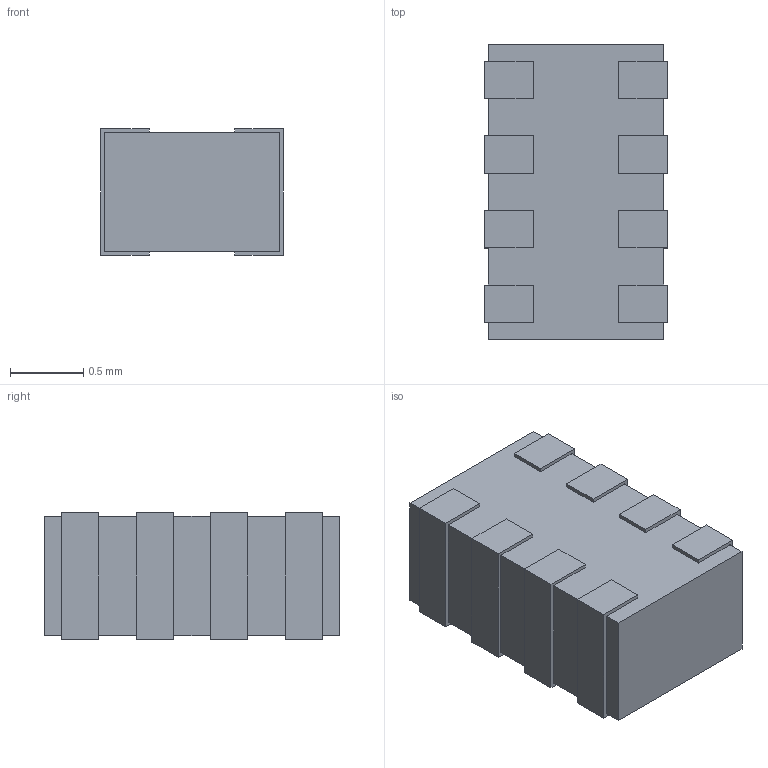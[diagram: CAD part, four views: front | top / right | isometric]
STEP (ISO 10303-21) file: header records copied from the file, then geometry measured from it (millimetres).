
FILE_DESCRIPTION(('STEP AP214'),'1');
FILE_NAME('CKCL44_TDK','2025-04-09T11:21:15',(''),(''),'','','');
FILE_SCHEMA(('AUTOMOTIVE_DESIGN'));
Length unit declared in the file: millimetre
Products named in the file (1): product
Bounding box: 1.24 x 2.01 x 0.86 mm (x, y, z)
Volume: 2 mm3; surface area: 16.7 mm2
Topology: 9 solids, 9 shells, 86 faces, 204 edges, 136 vertices
Faces by surface type: plane 86
Entity records: 2462 total; most frequent: ORIENTED_EDGE 408, DIRECTION 378, CARTESIAN_POINT 223, EDGE_CURVE 204, LINE 204, VECTOR 204, VERTEX_POINT 136, AXIS2_PLACEMENT_3D 87
